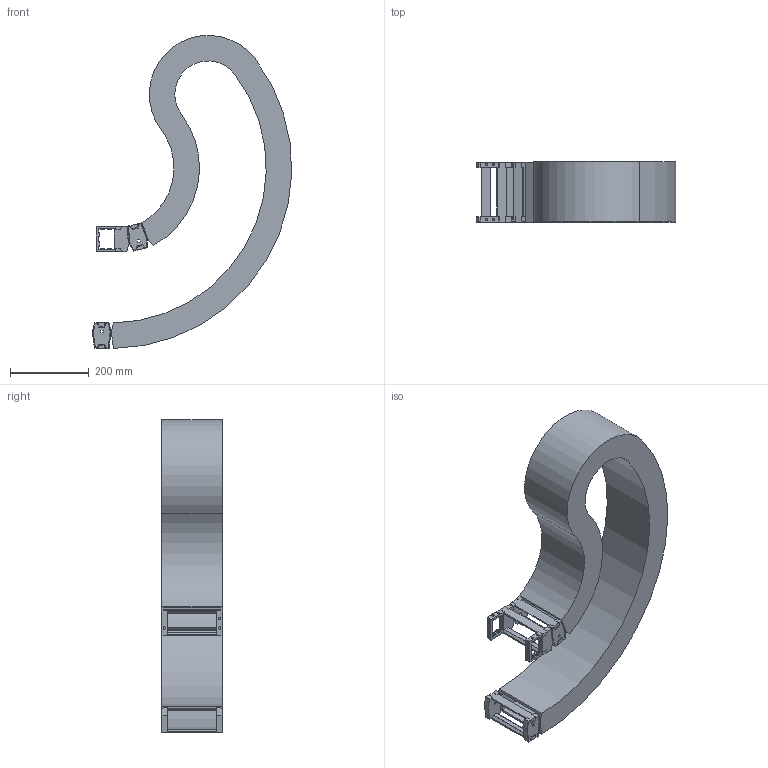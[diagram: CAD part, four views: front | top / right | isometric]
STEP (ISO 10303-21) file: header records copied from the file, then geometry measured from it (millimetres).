
FILE_DESCRIPTION( ( 'STEP AP214' ), '1' );
FILE_NAME( 'p:/temp/worker_35/temp/exporttempdir_3812_1112_IDCWM/format_2/RV048CRA15316116090300450-001252474.68352.stp', '2021-07-27T04:45:09', ( 'License CC BY-ND 4.0' ), ( 'CADENAS' ), ' ', 'PARTsolutions', ' ' );
FILE_SCHEMA( ( 'AUTOMOTIVE_DESIGN { 1 0 10303 214 1 1 1 1 }' ) );
Length unit declared in the file: millimetre
Products named in the file (4): RV048CRA15316116090300450-001252474.68352; _RV048CRA15316116090300450-001271501.283-Chain; _RV048CR-SU-48-125; _RV048CR_FB-153
Assembly tree (4 placements, depth 2):
  RV048CRA15316116090300450-001252474.68352
    _RV048CRA15316116090300450-001271501.283-Chain
    _RV048CR-SU-48-125  x2
    _RV048CR_FB-153
Bounding box: 507.79 x 153 x 796.98 mm (x, y, z)
Volume: 5657426.5 mm3; surface area: 1422967.1 mm2
Topology: 4 solids, 4 shells, 507 faces, 1482 edges, 980 vertices
Faces by surface type: plane 389, cylinder 118
Full cylindrical faces by diameter (mm): 6 x12
Entity records: 14298 total; most frequent: CARTESIAN_POINT 2024, ORIENTED_EDGE 2004, DIRECTION 1890, EDGE_CURVE 1002, LINE 822, VECTOR 822, VERTEX_POINT 668, AXIS2_PLACEMENT_3D 534
